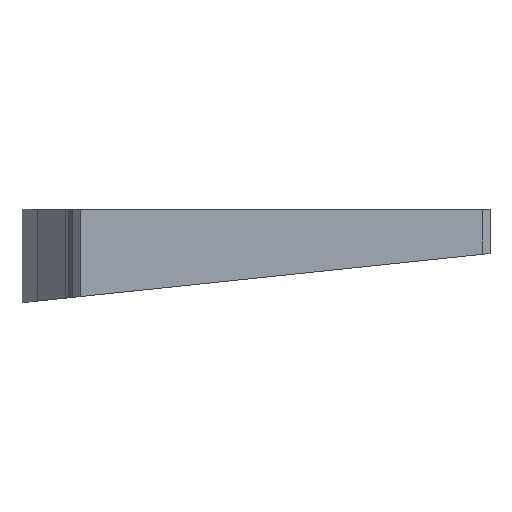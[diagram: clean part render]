
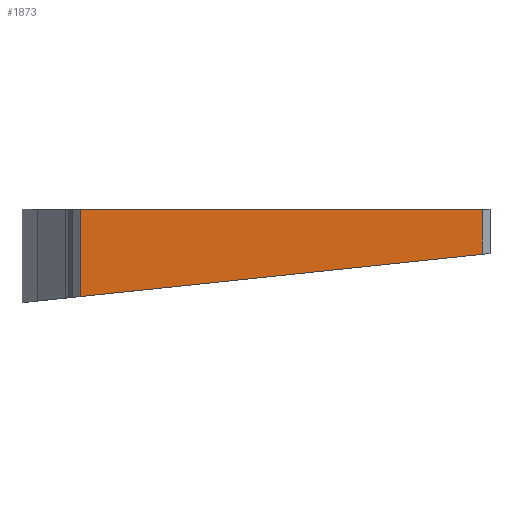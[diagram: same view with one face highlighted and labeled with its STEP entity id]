
A CAD part, left-side view. The second image highlights one B-rep face of the part: STEP entity #1873.
In plain terms, the highlighted planar face has unit normal (-1, 0, 0).
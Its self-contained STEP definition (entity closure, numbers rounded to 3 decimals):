
#115=PLANE('',#2012);
#212=FACE_OUTER_BOUND('',#330,.T.);
#330=EDGE_LOOP('',(#1750,#1751,#1752,#1753));
#386=LINE('',#2613,#616);
#397=LINE('',#2635,#627);
#431=LINE('',#2716,#661);
#453=LINE('',#2757,#683);
#616=VECTOR('',#2131,10.);
#627=VECTOR('',#2146,10.);
#661=VECTOR('',#2196,10.);
#683=VECTOR('',#2222,10.);
#860=VERTEX_POINT('',#2606);
#863=VERTEX_POINT('',#2611);
#872=VERTEX_POINT('',#2634);
#911=VERTEX_POINT('',#2715);
#1044=EDGE_CURVE('',#863,#860,#386,.T.);
#1055=EDGE_CURVE('',#860,#872,#397,.T.);
#1096=EDGE_CURVE('',#872,#911,#431,.T.);
#1118=EDGE_CURVE('',#863,#911,#453,.T.);
#1750=ORIENTED_EDGE('',*,*,#1044,.F.);
#1751=ORIENTED_EDGE('',*,*,#1118,.T.);
#1752=ORIENTED_EDGE('',*,*,#1096,.F.);
#1753=ORIENTED_EDGE('',*,*,#1055,.F.);
#1873=ADVANCED_FACE('',(#212),#115,.T.);
#2012=AXIS2_PLACEMENT_3D('',#3018,#2488,#2489);
#2131=DIRECTION('',(0.,0.,1.));
#2146=DIRECTION('',(0.,-1.,0.));
#2196=DIRECTION('',(0.,0.,-1.));
#2222=DIRECTION('',(0.,-0.995,0.105));
#2488=DIRECTION('center_axis',(-1.,0.,0.));
#2489=DIRECTION('ref_axis',(0.,-1.,0.));
#2606=CARTESIAN_POINT('',(-84.696,43.998,-70.5));
#2611=CARTESIAN_POINT('',(-84.696,43.998,-93.223));
#2613=CARTESIAN_POINT('',(-84.696,43.998,-100.));
#2634=CARTESIAN_POINT('',(-84.696,-60.781,-70.5));
#2635=CARTESIAN_POINT('',(-84.696,45.998,-70.5));
#2715=CARTESIAN_POINT('',(-84.696,-60.781,-82.21));
#2716=CARTESIAN_POINT('',(-84.696,-60.781,-100.));
#2757=CARTESIAN_POINT('',(-84.696,52.894,-94.158));
#3018=CARTESIAN_POINT('Origin',(-84.696,45.998,-100.));
